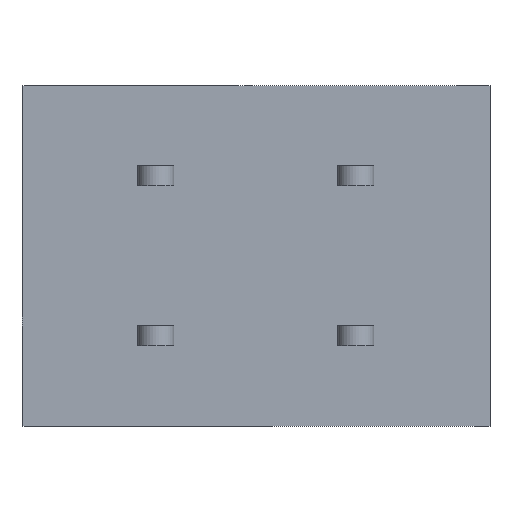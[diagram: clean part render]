
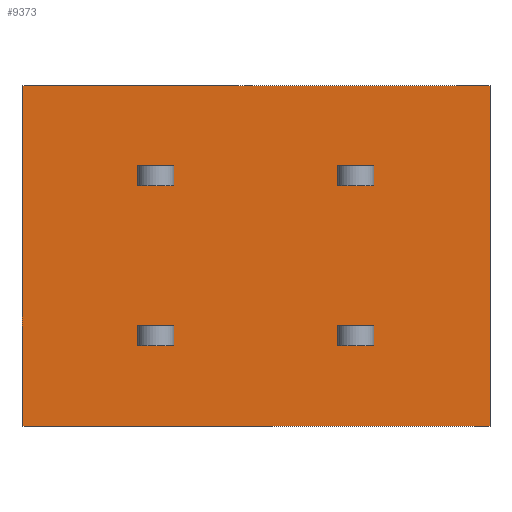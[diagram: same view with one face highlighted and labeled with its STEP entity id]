
A CAD part, front view. The second image highlights one B-rep face of the part: STEP entity #9373.
In plain terms, the highlighted planar face has unit normal (0, -1, 0).
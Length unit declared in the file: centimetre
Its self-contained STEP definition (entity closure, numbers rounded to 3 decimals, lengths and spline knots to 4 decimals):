
#595=VERTEX_POINT('',#12244);
#596=VERTEX_POINT('',#12245);
#599=VERTEX_POINT('',#12253);
#605=VERTEX_POINT('',#12268);
#606=VERTEX_POINT('',#12269);
#609=VERTEX_POINT('',#12277);
#611=VERTEX_POINT('',#12283);
#637=VERTEX_POINT('',#12356);
#652=VERTEX_POINT('',#12407);
#653=VERTEX_POINT('',#12408);
#654=VERTEX_POINT('',#12410);
#655=VERTEX_POINT('',#12412);
#656=VERTEX_POINT('',#12415);
#657=VERTEX_POINT('',#12416);
#658=VERTEX_POINT('',#12418);
#659=VERTEX_POINT('',#12420);
#660=VERTEX_POINT('',#12423);
#661=VERTEX_POINT('',#12424);
#662=VERTEX_POINT('',#12426);
#663=VERTEX_POINT('',#12428);
#1563=VECTOR('',#10437,1.);
#1567=VECTOR('',#10442,1.);
#1573=VECTOR('',#10452,1.);
#1576=VECTOR('',#10458,1.);
#1579=VECTOR('',#10462,1.);
#1605=VECTOR('',#10521,1.);
#1606=VECTOR('',#10523,1.);
#1617=VECTOR('',#10539,1.);
#1627=VECTOR('',#10564,1.);
#1628=VECTOR('',#10565,1.);
#1629=VECTOR('',#10566,1.);
#1630=VECTOR('',#10567,1.);
#1631=VECTOR('',#10568,1.);
#1632=VECTOR('',#10569,1.);
#1633=VECTOR('',#10570,1.);
#1634=VECTOR('',#10571,1.);
#1635=VECTOR('',#10572,1.);
#1636=VECTOR('',#10573,1.);
#1637=VECTOR('',#10574,1.);
#1638=VECTOR('',#10575,1.);
#2679=LINE('',#12243,#1563);
#2683=LINE('',#12252,#1567);
#2689=LINE('',#12267,#1573);
#2692=LINE('',#12276,#1576);
#2695=LINE('',#12282,#1579);
#2721=LINE('',#12353,#1605);
#2722=LINE('',#12355,#1606);
#2733=LINE('',#12376,#1617);
#2743=LINE('',#12406,#1627);
#2744=LINE('',#12409,#1628);
#2745=LINE('',#12411,#1629);
#2746=LINE('',#12413,#1630);
#2747=LINE('',#12414,#1631);
#2748=LINE('',#12417,#1632);
#2749=LINE('',#12419,#1633);
#2750=LINE('',#12421,#1634);
#2751=LINE('',#12422,#1635);
#2752=LINE('',#12425,#1636);
#2753=LINE('',#12427,#1637);
#2754=LINE('',#12429,#1638);
#3795=EDGE_CURVE('',#595,#596,#2679,.T.);
#3799=EDGE_CURVE('',#599,#595,#2683,.T.);
#3806=EDGE_CURVE('',#605,#606,#2689,.T.);
#3810=EDGE_CURVE('',#609,#605,#2692,.T.);
#3813=EDGE_CURVE('',#611,#609,#2695,.T.);
#3849=EDGE_CURVE('',#606,#611,#2721,.T.);
#3850=EDGE_CURVE('',#637,#599,#2722,.T.);
#3861=EDGE_CURVE('',#596,#637,#2733,.T.);
#3875=EDGE_CURVE('',#652,#653,#2743,.T.);
#3876=EDGE_CURVE('',#653,#654,#2744,.T.);
#3877=EDGE_CURVE('',#654,#655,#2745,.T.);
#3878=EDGE_CURVE('',#655,#652,#2746,.T.);
#3879=EDGE_CURVE('',#656,#657,#2747,.T.);
#3880=EDGE_CURVE('',#657,#658,#2748,.T.);
#3881=EDGE_CURVE('',#658,#659,#2749,.T.);
#3882=EDGE_CURVE('',#659,#656,#2750,.T.);
#3883=EDGE_CURVE('',#660,#661,#2751,.T.);
#3884=EDGE_CURVE('',#662,#661,#2752,.T.);
#3885=EDGE_CURVE('',#662,#663,#2753,.T.);
#3886=EDGE_CURVE('',#663,#660,#2754,.T.);
#5385=ORIENTED_EDGE('',*,*,#3875,.T.);
#5386=ORIENTED_EDGE('',*,*,#3876,.T.);
#5387=ORIENTED_EDGE('',*,*,#3877,.T.);
#5388=ORIENTED_EDGE('',*,*,#3878,.T.);
#5389=ORIENTED_EDGE('',*,*,#3879,.T.);
#5390=ORIENTED_EDGE('',*,*,#3880,.T.);
#5391=ORIENTED_EDGE('',*,*,#3881,.T.);
#5392=ORIENTED_EDGE('',*,*,#3882,.T.);
#5393=ORIENTED_EDGE('',*,*,#3883,.T.);
#5394=ORIENTED_EDGE('',*,*,#3884,.F.);
#5395=ORIENTED_EDGE('',*,*,#3885,.T.);
#5396=ORIENTED_EDGE('',*,*,#3886,.T.);
#5397=ORIENTED_EDGE('',*,*,#3813,.T.);
#5398=ORIENTED_EDGE('',*,*,#3810,.T.);
#5399=ORIENTED_EDGE('',*,*,#3806,.T.);
#5400=ORIENTED_EDGE('',*,*,#3849,.T.);
#5401=ORIENTED_EDGE('',*,*,#3799,.T.);
#5402=ORIENTED_EDGE('',*,*,#3795,.T.);
#5403=ORIENTED_EDGE('',*,*,#3861,.T.);
#5404=ORIENTED_EDGE('',*,*,#3850,.T.);
#8177=EDGE_LOOP('',(#5385,#5386,#5387,#5388));
#8178=EDGE_LOOP('',(#5389,#5390,#5391,#5392));
#8179=EDGE_LOOP('',(#5393,#5394,#5395,#5396));
#8180=EDGE_LOOP('',(#5397,#5398,#5399,#5400));
#8181=EDGE_LOOP('',(#5401,#5402,#5403,#5404));
#8777=FACE_BOUND('',#8177,.T.);
#8778=FACE_BOUND('',#8178,.T.);
#8779=FACE_BOUND('',#8179,.T.);
#8780=FACE_BOUND('',#8180,.T.);
#8781=FACE_BOUND('',#8181,.T.);
#9373=ADVANCED_FACE('',(#8777,#8778,#8779,#8780,#8781),#16213,.T.);
#9939=AXIS2_PLACEMENT_3D('',#12405,#10563,$);
#10437=DIRECTION('',(0.,0.,-1.));
#10442=DIRECTION('',(1.,0.,0.));
#10452=DIRECTION('',(1.,0.,0.));
#10458=DIRECTION('',(0.,0.,1.));
#10462=DIRECTION('',(-1.,0.,0.));
#10521=DIRECTION('',(0.,0.,-1.));
#10523=DIRECTION('',(0.,0.,1.));
#10539=DIRECTION('',(-1.,0.,0.));
#10563=DIRECTION('',(0.,-1.,0.));
#10564=DIRECTION('',(1.,0.,0.));
#10565=DIRECTION('',(0.,0.,-1.));
#10566=DIRECTION('',(-1.,0.,0.));
#10567=DIRECTION('',(0.,0.,1.));
#10568=DIRECTION('',(-1.,0.,0.));
#10569=DIRECTION('',(0.,0.,1.));
#10570=DIRECTION('',(1.,0.,0.));
#10571=DIRECTION('',(0.,0.,-1.));
#10572=DIRECTION('',(1.,0.,0.));
#10573=DIRECTION('',(0.,0.,-1.));
#10574=DIRECTION('',(-1.,0.,0.));
#10575=DIRECTION('',(0.,0.,-1.));
#12243=CARTESIAN_POINT('',(1.68,0.,-0.2));
#12244=CARTESIAN_POINT('',(1.68,0.,-0.35));
#12245=CARTESIAN_POINT('',(1.68,0.,-0.45));
#12252=CARTESIAN_POINT('',(0.795,0.,-0.35));
#12253=CARTESIAN_POINT('',(1.5,0.,-0.35));
#12267=CARTESIAN_POINT('',(0.795,0.,0.45));
#12268=CARTESIAN_POINT('',(1.5,0.,0.45));
#12269=CARTESIAN_POINT('',(1.68,0.,0.45));
#12276=CARTESIAN_POINT('',(1.5,0.,0.2));
#12277=CARTESIAN_POINT('',(1.5,0.,0.35));
#12282=CARTESIAN_POINT('',(0.795,0.,0.35));
#12283=CARTESIAN_POINT('',(1.68,0.,0.35));
#12353=CARTESIAN_POINT('',(1.68,0.,0.2));
#12355=CARTESIAN_POINT('',(1.5,0.,-0.2));
#12356=CARTESIAN_POINT('',(1.5,0.,-0.45));
#12376=CARTESIAN_POINT('',(0.795,0.,-0.45));
#12405=CARTESIAN_POINT('',(0.,0.,0.));
#12406=CARTESIAN_POINT('',(0.295,0.,-0.35));
#12407=CARTESIAN_POINT('',(0.5,0.,-0.35));
#12408=CARTESIAN_POINT('',(0.68,0.,-0.35));
#12409=CARTESIAN_POINT('',(0.68,0.,-0.2));
#12410=CARTESIAN_POINT('',(0.68,0.,-0.45));
#12411=CARTESIAN_POINT('',(0.295,0.,-0.45));
#12412=CARTESIAN_POINT('',(0.5,0.,-0.45));
#12413=CARTESIAN_POINT('',(0.5,0.,-0.2));
#12414=CARTESIAN_POINT('',(0.295,0.,0.35));
#12415=CARTESIAN_POINT('',(0.68,0.,0.35));
#12416=CARTESIAN_POINT('',(0.5,0.,0.35));
#12417=CARTESIAN_POINT('',(0.5,0.,0.2));
#12418=CARTESIAN_POINT('',(0.5,0.,0.45));
#12419=CARTESIAN_POINT('',(0.295,0.,0.45));
#12420=CARTESIAN_POINT('',(0.68,0.,0.45));
#12421=CARTESIAN_POINT('',(0.68,0.,0.2));
#12422=CARTESIAN_POINT('',(1.,0.,-0.85));
#12423=CARTESIAN_POINT('',(-0.08,0.,-0.85));
#12424=CARTESIAN_POINT('',(2.26,0.,-0.85));
#12425=CARTESIAN_POINT('',(2.26,0.,0.85));
#12426=CARTESIAN_POINT('',(2.26,0.,0.85));
#12427=CARTESIAN_POINT('',(0.,0.,0.85));
#12428=CARTESIAN_POINT('',(-0.08,0.,0.85));
#12429=CARTESIAN_POINT('',(-0.08,0.,0.85));
#16213=PLANE('',#9939);
